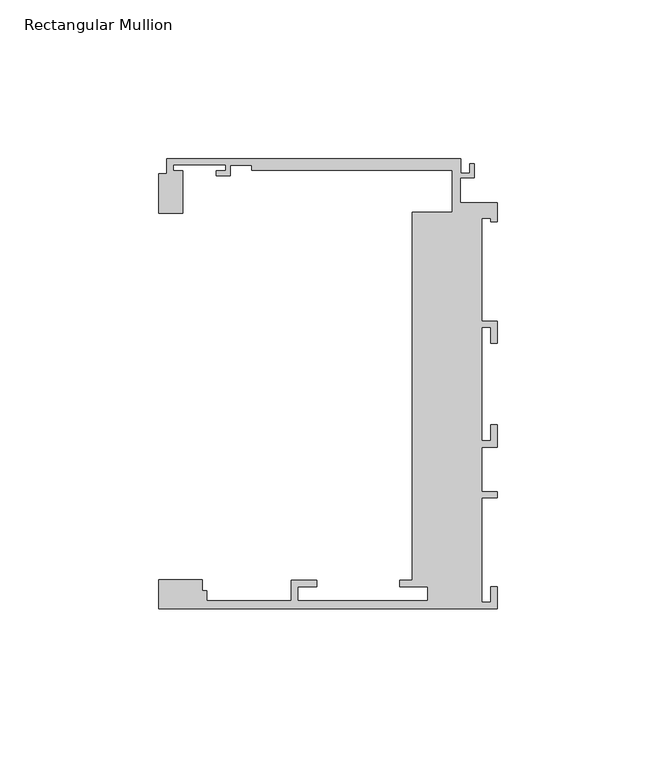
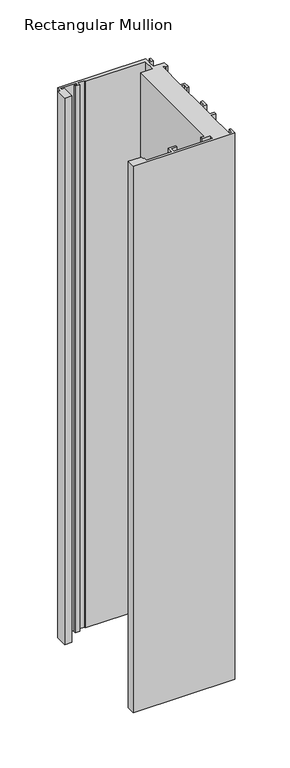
"""IFC4 building model written with IfcOpenShell, lengths in millimetres: member geometry, Rectangular Mullion : Danpal_K12_End-Mullion_B1."""

from ifc_helpers import new_model, si_unit, frame, origin, place, context, project, spatial, polyline, outline, extrude, source, transform, mapped, element, save


def rectangular_mullion_70242c1d(model_context):
    return source(origin(), model_context, "Body", "SweptSolid", [
        extrude(outline(polyline([(-26.6209612, -117.8676658), (-26.6209612, -1.9446289), (-14.1055875, -1.9446289), (-14.1055875, 11.3051512), (-77.1531178, 11.3051512), (-77.1531178, 12.8051513), (-83.8999976, 12.8051513), (-83.8999976, 9.5051512), (-88.3999976, 9.5051512), (-88.3999976, 11.0051513), (-85.3999976, 11.0051513), (-85.3999976, 13.0051512), (-101.8999976, 13.0051512), (-101.8999976, 11.0051513), (-98.8999976, 11.0051513), (-98.8999976, -2.316674), (-106.4117426, -2.316674), (-106.4117426, 10.065304), (-103.8999976, 10.065304), (-103.8999976, 14.8051514), (-11.4019537, 14.8051514), (-11.4019537, 10.3006425), (-8.6518595, 10.3006425), (-8.6518595, 13.3051514), (-7.1518595, 13.3051514), (-7.1518595, 8.8006425), (-11.6055875, 8.8006425), (-11.6055875, 1.0551514), (0.0, 1.0551514), (0.0, -4.9448486), (-2.0, -4.9448486), (-2.0, -3.9448486), (-4.8, -3.9448486), (-4.8, -36.2443486), (0.0, -36.2443486), (0.0, -43.2443486), (-2.0, -43.2443486), (-2.0, -38.2443486), (-4.8, -38.2443486), (-4.8, -73.8676657), (-2.0, -73.8676657), (-2.0, -68.8676657), (0.0, -68.8676657), (0.0, -75.867683), (-4.8, -75.867683), (-4.8, -89.8676485), (0.0, -89.8676485), (0.0, -91.8676485), (-4.8, -91.8676485), (-4.8, -124.7676657), (-2.0, -124.7676657), (-2.0, -119.7676657), (0.0, -119.7676657), (0.0, -126.7676657), (-106.4117426, -126.7676657), (-106.4117426, -117.6986749), (-92.8228167, -117.6986749), (-92.8228167, -121.0676175), (-91.2900275, -121.0676175), (-91.2900275, -124.2676658), (-64.7350275, -124.2676658), (-64.7350275, -117.8676658), (-56.7350275, -117.8676658), (-56.7350275, -119.8676658), (-62.7350275, -119.8676658), (-62.7350275, -124.2676658), (-21.835, -124.2676658), (-21.835, -119.8676658), (-30.6, -119.8676658), (-30.6, -117.8676658), (-26.6209612, -117.8676658)])), frame((0.0, 0.0, -605.0), z_axis=(0.0, 0.0, 1.0), x_axis=(1.0, 0.0, 0.0)), (0.0, 0.0, 1.0), 605.0),
    ])


if __name__ == "__main__":
    model = new_model("IFC4")
    model_context = context("Model", 3, world=origin())
    ifc_project = project(units=[si_unit("LENGTHUNIT", "METRE", prefix="MILLI")], contexts=[model_context])
    site = spatial("IfcSite", under=ifc_project)
    building = spatial("IfcBuilding", under=site)
    placement = place(None, origin())
    rectangular_mullion_shape = rectangular_mullion_70242c1d(model_context)
    element("IfcMember", 1, ObjectType="Rectangular Mullion : Danpal_K12_End-Mullion_B1", at=placement, inside=building, context=model_context, shape_type="MappedRepresentation", body=[
        mapped(rectangular_mullion_shape, transform((0.0, 0.0, 0.0), x_axis=(1.0, 0.0, 0.0), y_axis=(0.0, 1.0, 0.0), z_axis=(0.0, 0.0, 1.0))),
    ])
    save(model, "model.ifc")
